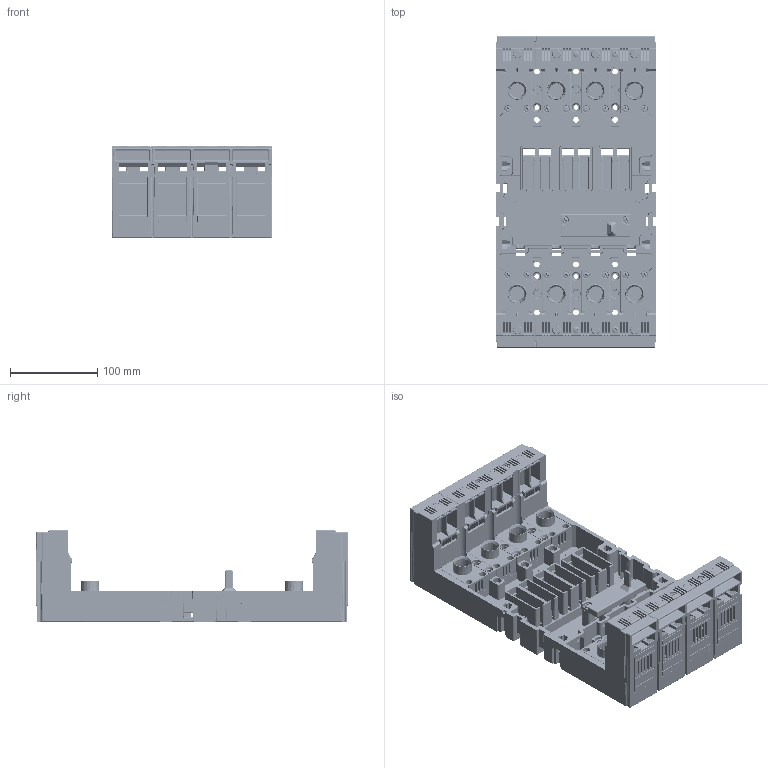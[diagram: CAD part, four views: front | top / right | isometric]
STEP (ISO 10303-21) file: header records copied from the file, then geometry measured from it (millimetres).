
FILE_DESCRIPTION (( 'STEP AP214' ), '1' );
FILE_NAME ('ZO-BH-0630-400.step', '2011-08-23T10:19:10', ( 'Radek Veselý' ), ( 'Siemens and Partners' ), 'SwSTEP 2.0', 'SolidWorks 2006303', '' );
FILE_SCHEMA (( 'AUTOMOTIVE_DESIGN' ));
Length unit declared in the file: millimetre
Products named in the file (1): ZO-BH-0630-400
Bounding box: 185 x 358 x 105 mm (x, y, z)
Volume: 1260331.9 mm3; surface area: 792975.4 mm2
Topology: 44 solids, 44 shells, 10349 faces, 27657 edges, 17422 vertices
Faces by surface type: plane 6381, cylinder 2674, bspline 519, cone 306, sphere 278, torus 191
Entity records: 451662 total; most frequent: CARTESIAN_POINT 85184, ORIENTED_EDGE 54690, DIRECTION 49719, EDGE_CURVE 27345, VECTOR 19317, LINE 19317, VERTEX_POINT 17422, AXIS2_PLACEMENT_3D 15201
